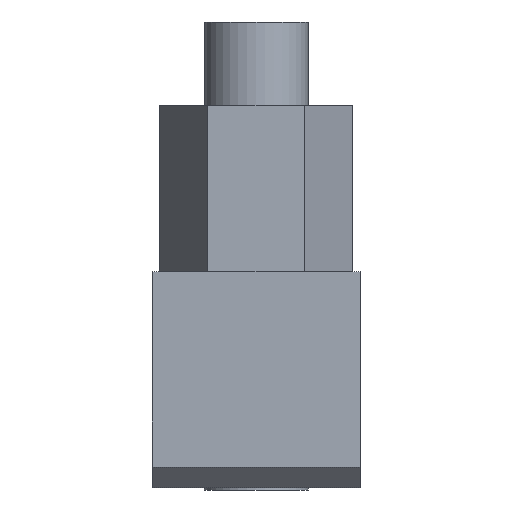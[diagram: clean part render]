
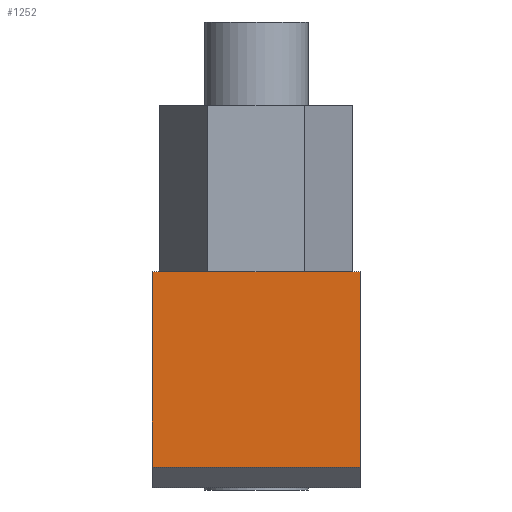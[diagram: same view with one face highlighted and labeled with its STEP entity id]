
A CAD part, left-side view. The second image highlights one B-rep face of the part: STEP entity #1252.
In plain terms, the highlighted planar face has unit normal (-1, 0, 0).
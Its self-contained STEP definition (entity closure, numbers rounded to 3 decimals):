
#182=FACE_OUTER_BOUND('',#264,.T.);
#264=EDGE_LOOP('',(#916,#917,#918,#919));
#347=LINE('',#1974,#445);
#351=LINE('',#1983,#449);
#375=LINE('',#2037,#473);
#376=LINE('',#2038,#474);
#445=VECTOR('',#1582,10.);
#449=VECTOR('',#1590,10.);
#473=VECTOR('',#1640,10.);
#474=VECTOR('',#1641,10.);
#539=VERTEX_POINT('',#1967);
#542=VERTEX_POINT('',#1972);
#545=VERTEX_POINT('',#1982);
#562=VERTEX_POINT('',#2036);
#669=EDGE_CURVE('',#542,#539,#347,.T.);
#673=EDGE_CURVE('',#545,#539,#351,.T.);
#699=EDGE_CURVE('',#562,#542,#375,.T.);
#700=EDGE_CURVE('',#562,#545,#376,.T.);
#916=ORIENTED_EDGE('',*,*,#669,.F.);
#917=ORIENTED_EDGE('',*,*,#699,.F.);
#918=ORIENTED_EDGE('',*,*,#700,.T.);
#919=ORIENTED_EDGE('',*,*,#673,.T.);
#1193=PLANE('',#1410);
#1252=ADVANCED_FACE('',(#182),#1193,.T.);
#1410=AXIS2_PLACEMENT_3D('',#2035,#1638,#1639);
#1582=DIRECTION('',(0.,1.,0.));
#1590=DIRECTION('',(0.,0.,-1.));
#1638=DIRECTION('center_axis',(-1.,0.,0.));
#1639=DIRECTION('ref_axis',(0.,1.,0.));
#1640=DIRECTION('',(0.,0.,-1.));
#1641=DIRECTION('',(0.,1.,0.));
#1967=CARTESIAN_POINT('',(-10.,5.,-9.4));
#1972=CARTESIAN_POINT('',(-10.,-5.,-9.4));
#1974=CARTESIAN_POINT('',(-10.,-2.5,-9.4));
#1982=CARTESIAN_POINT('',(-10.,5.,0.));
#1983=CARTESIAN_POINT('',(-10.,5.,0.));
#2035=CARTESIAN_POINT('Origin',(-10.,-5.,0.));
#2036=CARTESIAN_POINT('',(-10.,-5.,0.));
#2037=CARTESIAN_POINT('',(-10.,-5.,0.));
#2038=CARTESIAN_POINT('',(-10.,-5.,0.));
